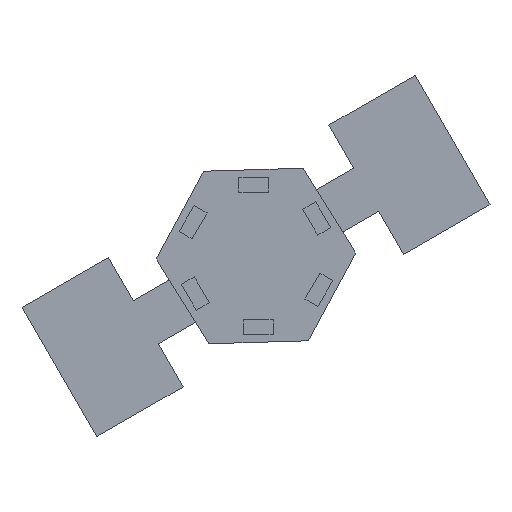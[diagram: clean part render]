
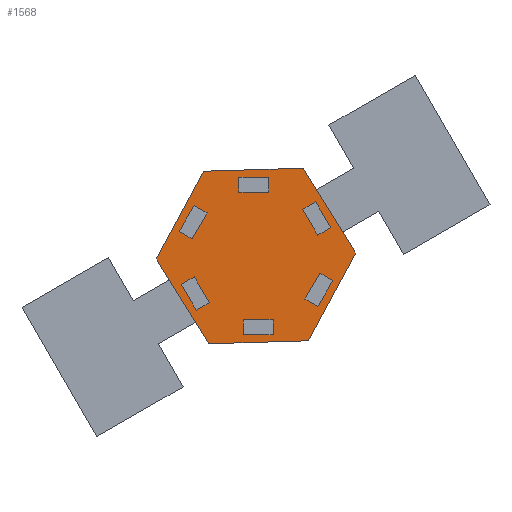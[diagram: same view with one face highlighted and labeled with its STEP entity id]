
A CAD part, front view. The second image highlights one B-rep face of the part: STEP entity #1568.
In plain terms, the highlighted planar face has unit normal (0, -1, 0).
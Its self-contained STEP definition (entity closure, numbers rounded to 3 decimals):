
#61=FACE_BOUND('',#215,.T.);
#62=FACE_BOUND('',#216,.T.);
#63=FACE_BOUND('',#217,.T.);
#64=FACE_BOUND('',#218,.T.);
#65=FACE_BOUND('',#219,.T.);
#66=FACE_BOUND('',#220,.T.);
#130=FACE_OUTER_BOUND('',#214,.T.);
#214=EDGE_LOOP('',(#1247,#1248,#1249,#1250,#1251,#1252));
#215=EDGE_LOOP('',(#1253,#1254,#1255,#1256));
#216=EDGE_LOOP('',(#1257,#1258,#1259,#1260));
#217=EDGE_LOOP('',(#1261,#1262,#1263,#1264));
#218=EDGE_LOOP('',(#1265,#1266,#1267,#1268));
#219=EDGE_LOOP('',(#1269,#1270,#1271,#1272));
#220=EDGE_LOOP('',(#1273,#1274,#1275,#1276));
#291=LINE('',#2222,#501);
#295=LINE('',#2230,#505);
#298=LINE('',#2236,#508);
#301=LINE('',#2241,#511);
#303=LINE('',#2246,#513);
#307=LINE('',#2254,#517);
#310=LINE('',#2260,#520);
#313=LINE('',#2265,#523);
#315=LINE('',#2270,#525);
#319=LINE('',#2278,#529);
#322=LINE('',#2284,#532);
#325=LINE('',#2289,#535);
#327=LINE('',#2294,#537);
#331=LINE('',#2302,#541);
#334=LINE('',#2308,#544);
#337=LINE('',#2313,#547);
#339=LINE('',#2318,#549);
#343=LINE('',#2326,#553);
#346=LINE('',#2332,#556);
#349=LINE('',#2337,#559);
#351=LINE('',#2342,#561);
#355=LINE('',#2350,#565);
#358=LINE('',#2356,#568);
#361=LINE('',#2361,#571);
#363=LINE('',#2366,#573);
#367=LINE('',#2374,#577);
#370=LINE('',#2380,#580);
#373=LINE('',#2386,#583);
#376=LINE('',#2392,#586);
#379=LINE('',#2397,#589);
#501=VECTOR('',#1816,10.);
#505=VECTOR('',#1822,10.);
#508=VECTOR('',#1827,10.);
#511=VECTOR('',#1832,10.);
#513=VECTOR('',#1836,10.);
#517=VECTOR('',#1842,10.);
#520=VECTOR('',#1847,10.);
#523=VECTOR('',#1852,10.);
#525=VECTOR('',#1856,10.);
#529=VECTOR('',#1862,10.);
#532=VECTOR('',#1867,10.);
#535=VECTOR('',#1872,10.);
#537=VECTOR('',#1876,10.);
#541=VECTOR('',#1882,10.);
#544=VECTOR('',#1887,10.);
#547=VECTOR('',#1892,10.);
#549=VECTOR('',#1896,10.);
#553=VECTOR('',#1902,10.);
#556=VECTOR('',#1907,10.);
#559=VECTOR('',#1912,10.);
#561=VECTOR('',#1916,10.);
#565=VECTOR('',#1922,10.);
#568=VECTOR('',#1927,10.);
#571=VECTOR('',#1932,10.);
#573=VECTOR('',#1936,10.);
#577=VECTOR('',#1942,10.);
#580=VECTOR('',#1947,10.);
#583=VECTOR('',#1952,10.);
#586=VECTOR('',#1957,10.);
#589=VECTOR('',#1962,10.);
#699=VERTEX_POINT('',#2220);
#700=VERTEX_POINT('',#2221);
#703=VERTEX_POINT('',#2229);
#705=VERTEX_POINT('',#2235);
#707=VERTEX_POINT('',#2244);
#708=VERTEX_POINT('',#2245);
#711=VERTEX_POINT('',#2253);
#713=VERTEX_POINT('',#2259);
#715=VERTEX_POINT('',#2268);
#716=VERTEX_POINT('',#2269);
#719=VERTEX_POINT('',#2277);
#721=VERTEX_POINT('',#2283);
#723=VERTEX_POINT('',#2292);
#724=VERTEX_POINT('',#2293);
#727=VERTEX_POINT('',#2301);
#729=VERTEX_POINT('',#2307);
#731=VERTEX_POINT('',#2316);
#732=VERTEX_POINT('',#2317);
#735=VERTEX_POINT('',#2325);
#737=VERTEX_POINT('',#2331);
#739=VERTEX_POINT('',#2340);
#740=VERTEX_POINT('',#2341);
#743=VERTEX_POINT('',#2349);
#745=VERTEX_POINT('',#2355);
#747=VERTEX_POINT('',#2364);
#748=VERTEX_POINT('',#2365);
#751=VERTEX_POINT('',#2373);
#753=VERTEX_POINT('',#2379);
#755=VERTEX_POINT('',#2385);
#757=VERTEX_POINT('',#2391);
#851=EDGE_CURVE('',#699,#700,#291,.T.);
#855=EDGE_CURVE('',#703,#699,#295,.T.);
#858=EDGE_CURVE('',#705,#703,#298,.T.);
#861=EDGE_CURVE('',#700,#705,#301,.T.);
#863=EDGE_CURVE('',#707,#708,#303,.T.);
#867=EDGE_CURVE('',#711,#707,#307,.T.);
#870=EDGE_CURVE('',#713,#711,#310,.T.);
#873=EDGE_CURVE('',#708,#713,#313,.T.);
#875=EDGE_CURVE('',#715,#716,#315,.T.);
#879=EDGE_CURVE('',#719,#715,#319,.T.);
#882=EDGE_CURVE('',#721,#719,#322,.T.);
#885=EDGE_CURVE('',#716,#721,#325,.T.);
#887=EDGE_CURVE('',#723,#724,#327,.T.);
#891=EDGE_CURVE('',#727,#723,#331,.T.);
#894=EDGE_CURVE('',#729,#727,#334,.T.);
#897=EDGE_CURVE('',#724,#729,#337,.T.);
#899=EDGE_CURVE('',#731,#732,#339,.T.);
#903=EDGE_CURVE('',#735,#731,#343,.T.);
#906=EDGE_CURVE('',#737,#735,#346,.T.);
#909=EDGE_CURVE('',#732,#737,#349,.T.);
#911=EDGE_CURVE('',#739,#740,#351,.T.);
#915=EDGE_CURVE('',#743,#739,#355,.T.);
#918=EDGE_CURVE('',#745,#743,#358,.T.);
#921=EDGE_CURVE('',#740,#745,#361,.T.);
#923=EDGE_CURVE('',#747,#748,#363,.T.);
#927=EDGE_CURVE('',#751,#747,#367,.T.);
#930=EDGE_CURVE('',#753,#751,#370,.T.);
#933=EDGE_CURVE('',#755,#753,#373,.T.);
#936=EDGE_CURVE('',#757,#755,#376,.T.);
#939=EDGE_CURVE('',#748,#757,#379,.T.);
#1247=ORIENTED_EDGE('',*,*,#939,.F.);
#1248=ORIENTED_EDGE('',*,*,#923,.F.);
#1249=ORIENTED_EDGE('',*,*,#927,.F.);
#1250=ORIENTED_EDGE('',*,*,#930,.F.);
#1251=ORIENTED_EDGE('',*,*,#933,.F.);
#1252=ORIENTED_EDGE('',*,*,#936,.F.);
#1253=ORIENTED_EDGE('',*,*,#921,.F.);
#1254=ORIENTED_EDGE('',*,*,#911,.F.);
#1255=ORIENTED_EDGE('',*,*,#915,.F.);
#1256=ORIENTED_EDGE('',*,*,#918,.F.);
#1257=ORIENTED_EDGE('',*,*,#909,.F.);
#1258=ORIENTED_EDGE('',*,*,#899,.F.);
#1259=ORIENTED_EDGE('',*,*,#903,.F.);
#1260=ORIENTED_EDGE('',*,*,#906,.F.);
#1261=ORIENTED_EDGE('',*,*,#897,.F.);
#1262=ORIENTED_EDGE('',*,*,#887,.F.);
#1263=ORIENTED_EDGE('',*,*,#891,.F.);
#1264=ORIENTED_EDGE('',*,*,#894,.F.);
#1265=ORIENTED_EDGE('',*,*,#885,.F.);
#1266=ORIENTED_EDGE('',*,*,#875,.F.);
#1267=ORIENTED_EDGE('',*,*,#879,.F.);
#1268=ORIENTED_EDGE('',*,*,#882,.F.);
#1269=ORIENTED_EDGE('',*,*,#873,.F.);
#1270=ORIENTED_EDGE('',*,*,#863,.F.);
#1271=ORIENTED_EDGE('',*,*,#867,.F.);
#1272=ORIENTED_EDGE('',*,*,#870,.F.);
#1273=ORIENTED_EDGE('',*,*,#861,.F.);
#1274=ORIENTED_EDGE('',*,*,#851,.F.);
#1275=ORIENTED_EDGE('',*,*,#855,.F.);
#1276=ORIENTED_EDGE('',*,*,#858,.F.);
#1490=PLANE('',#1698);
#1568=ADVANCED_FACE('',(#130,#61,#62,#63,#64,#65,#66),#1490,.F.);
#1698=AXIS2_PLACEMENT_3D('',#2400,#1966,#1967);
#1816=DIRECTION('',(1.,0.,0.));
#1822=DIRECTION('',(0.,0.,-1.));
#1827=DIRECTION('',(-1.,0.,0.));
#1832=DIRECTION('',(0.,0.,1.));
#1836=DIRECTION('',(-0.866,0.,-0.5));
#1842=DIRECTION('',(-0.5,0.,0.866));
#1847=DIRECTION('',(0.866,0.,0.5));
#1852=DIRECTION('',(0.5,0.,-0.866));
#1856=DIRECTION('',(0.866,0.,0.5));
#1862=DIRECTION('',(0.5,0.,-0.866));
#1867=DIRECTION('',(-0.866,0.,-0.5));
#1872=DIRECTION('',(-0.5,0.,0.866));
#1876=DIRECTION('',(0.866,0.,-0.5));
#1882=DIRECTION('',(-0.5,0.,-0.866));
#1887=DIRECTION('',(-0.866,0.,0.5));
#1892=DIRECTION('',(0.5,0.,0.866));
#1896=DIRECTION('',(-0.866,0.,0.5));
#1902=DIRECTION('',(0.5,0.,0.866));
#1907=DIRECTION('',(0.866,0.,-0.5));
#1912=DIRECTION('',(-0.5,0.,-0.866));
#1916=DIRECTION('',(0.,0.,1.));
#1922=DIRECTION('',(1.,0.,0.));
#1927=DIRECTION('',(0.,0.,-1.));
#1932=DIRECTION('',(-1.,0.,0.));
#1936=DIRECTION('',(-0.526,0.,0.851));
#1942=DIRECTION('',(-1.,0.,-0.03));
#1947=DIRECTION('',(-0.474,0.,-0.881));
#1952=DIRECTION('',(0.526,0.,-0.851));
#1957=DIRECTION('',(1.,0.,0.03));
#1962=DIRECTION('',(0.474,0.,0.881));
#1966=DIRECTION('center_axis',(0.,1.,0.));
#1967=DIRECTION('ref_axis',(1.,0.,0.));
#2220=CARTESIAN_POINT('',(7.086,0.,-4.199));
#2221=CARTESIAN_POINT('',(13.086,0.,-4.199));
#2222=CARTESIAN_POINT('',(13.086,0.,-4.199));
#2229=CARTESIAN_POINT('',(7.086,0.,-1.199));
#2230=CARTESIAN_POINT('',(7.086,0.,-4.199));
#2235=CARTESIAN_POINT('',(13.086,0.,-1.199));
#2236=CARTESIAN_POINT('',(7.086,0.,-1.199));
#2241=CARTESIAN_POINT('',(13.086,0.,-1.199));
#2244=CARTESIAN_POINT('',(22.495,0.,-6.134));
#2245=CARTESIAN_POINT('',(19.897,0.,-7.634));
#2246=CARTESIAN_POINT('',(19.897,0.,-7.634));
#2253=CARTESIAN_POINT('',(25.495,0.,-11.33));
#2254=CARTESIAN_POINT('',(22.495,0.,-6.134));
#2259=CARTESIAN_POINT('',(22.897,0.,-12.83));
#2260=CARTESIAN_POINT('',(25.495,0.,-11.33));
#2265=CARTESIAN_POINT('',(22.897,0.,-12.83));
#2268=CARTESIAN_POINT('',(-1.462,0.,-27.889));
#2269=CARTESIAN_POINT('',(1.136,0.,-26.389));
#2270=CARTESIAN_POINT('',(1.136,0.,-26.389));
#2277=CARTESIAN_POINT('',(-4.462,0.,-22.693));
#2278=CARTESIAN_POINT('',(-1.462,0.,-27.889));
#2283=CARTESIAN_POINT('',(-1.864,0.,-21.193));
#2284=CARTESIAN_POINT('',(-4.462,0.,-22.693));
#2289=CARTESIAN_POINT('',(-1.864,0.,-21.193));
#2292=CARTESIAN_POINT('',(-4.893,0.,-12.077));
#2293=CARTESIAN_POINT('',(-2.295,0.,-13.577));
#2294=CARTESIAN_POINT('',(-2.295,0.,-13.577));
#2301=CARTESIAN_POINT('',(-1.893,0.,-6.881));
#2302=CARTESIAN_POINT('',(-4.893,0.,-12.077));
#2307=CARTESIAN_POINT('',(0.705,0.,-8.381));
#2308=CARTESIAN_POINT('',(-1.893,0.,-6.881));
#2313=CARTESIAN_POINT('',(0.705,0.,-8.381));
#2316=CARTESIAN_POINT('',(25.926,0.,-21.947));
#2317=CARTESIAN_POINT('',(23.328,0.,-20.447));
#2318=CARTESIAN_POINT('',(23.328,0.,-20.447));
#2325=CARTESIAN_POINT('',(22.926,0.,-27.143));
#2326=CARTESIAN_POINT('',(25.926,0.,-21.947));
#2331=CARTESIAN_POINT('',(20.328,0.,-25.643));
#2332=CARTESIAN_POINT('',(22.926,0.,-27.143));
#2337=CARTESIAN_POINT('',(20.328,0.,-25.643));
#2340=CARTESIAN_POINT('',(13.948,0.,-32.824));
#2341=CARTESIAN_POINT('',(13.948,0.,-29.824));
#2342=CARTESIAN_POINT('',(13.948,0.,-29.824));
#2349=CARTESIAN_POINT('',(7.948,0.,-32.824));
#2350=CARTESIAN_POINT('',(13.948,0.,-32.824));
#2355=CARTESIAN_POINT('',(7.948,0.,-29.824));
#2356=CARTESIAN_POINT('',(7.948,0.,-32.824));
#2361=CARTESIAN_POINT('',(7.948,0.,-29.824));
#2364=CARTESIAN_POINT('',(1.043,0.,-34.625));
#2365=CARTESIAN_POINT('',(-9.474,0.,-17.614));
#2366=CARTESIAN_POINT('',(1.043,0.,-34.625));
#2373=CARTESIAN_POINT('',(21.034,0.,-34.023));
#2374=CARTESIAN_POINT('',(21.034,0.,-34.023));
#2379=CARTESIAN_POINT('',(30.508,0.,-16.41));
#2380=CARTESIAN_POINT('',(30.508,0.,-16.41));
#2385=CARTESIAN_POINT('',(19.991,0.,0.602));
#2386=CARTESIAN_POINT('',(19.991,0.,0.602));
#2391=CARTESIAN_POINT('',(0.,0.,0.));
#2392=CARTESIAN_POINT('',(0.,0.,0.));
#2397=CARTESIAN_POINT('',(-9.474,0.,-17.614));
#2400=CARTESIAN_POINT('Origin',(10.517,0.,-17.012));
